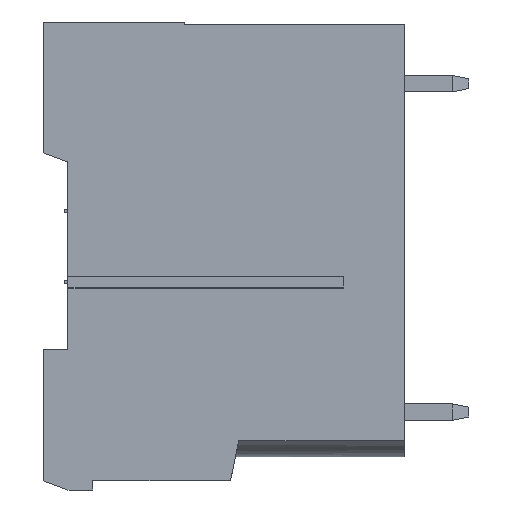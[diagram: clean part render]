
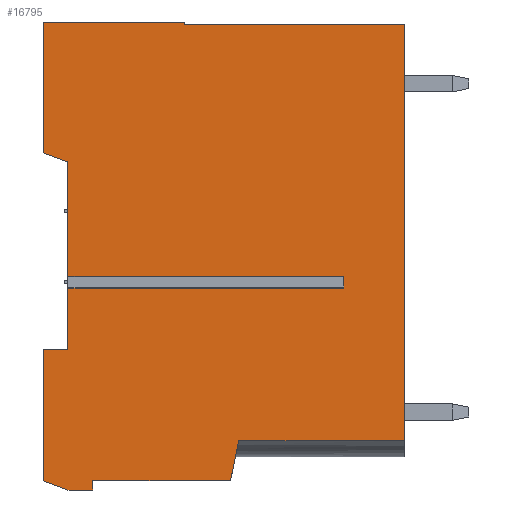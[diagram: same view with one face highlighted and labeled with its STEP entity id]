
A CAD part, left-side view. The second image highlights one B-rep face of the part: STEP entity #16795.
In plain terms, the highlighted planar face has unit normal (-1, 0, 0).
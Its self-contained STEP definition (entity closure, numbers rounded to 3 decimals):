
#12517=DIRECTION('',(0.,0.,1.));
#12518=VECTOR('',#12517,0.71);
#12519=CARTESIAN_POINT('',(-4.,3.7,-16.205));
#12520=LINE('',#12519,#12518);
#12521=DIRECTION('',(0.,0.,1.));
#12522=VECTOR('',#12521,6.975);
#12523=CARTESIAN_POINT('',(-4.,20.5,-15.495));
#12524=LINE('',#12523,#12522);
#12525=DIRECTION('',(0.,0.939,0.344));
#12526=VECTOR('',#12525,1.598);
#12527=CARTESIAN_POINT('',(-4.,20.5,-8.52));
#12528=LINE('',#12527,#12526);
#12529=DIRECTION('',(0.,0.,1.));
#12530=VECTOR('',#12529,7.97);
#12531=CARTESIAN_POINT('',(-4.,22.,-7.97));
#12532=LINE('',#12531,#12530);
#12533=DIRECTION('',(0.,-1.,0.));
#12534=VECTOR('',#12533,8.6);
#12535=CARTESIAN_POINT('',(-4.,22.,0.));
#12536=LINE('',#12535,#12534);
#12537=DIRECTION('',(0.,0.,-1.));
#12538=VECTOR('',#12537,0.15);
#12539=CARTESIAN_POINT('',(-4.,13.4,0.));
#12540=LINE('',#12539,#12538);
#12541=DIRECTION('',(0.,-1.,0.));
#12542=VECTOR('',#12541,13.4);
#12543=CARTESIAN_POINT('',(-4.,13.4,-0.15));
#12544=LINE('',#12543,#12542);
#12545=DIRECTION('',(0.,0.,-1.));
#12546=VECTOR('',#12545,25.35);
#12547=CARTESIAN_POINT('',(-4.,0.,-0.15));
#12548=LINE('',#12547,#12546);
#12549=DIRECTION('',(0.,1.,0.));
#12550=VECTOR('',#12549,10.1);
#12551=CARTESIAN_POINT('',(-4.,0.,-25.5));
#12552=LINE('',#12551,#12550);
#12553=DIRECTION('',(0.,0.2,-0.98));
#12554=VECTOR('',#12553,2.5);
#12555=CARTESIAN_POINT('',(-4.,10.1,-25.5));
#12556=LINE('',#12555,#12554);
#12557=DIRECTION('',(0.,1.,0.));
#12558=VECTOR('',#12557,8.4);
#12559=CARTESIAN_POINT('',(-4.,10.6,-27.95));
#12560=LINE('',#12559,#12558);
#12561=DIRECTION('',(0.,0.,-1.));
#12562=VECTOR('',#12561,0.55);
#12563=CARTESIAN_POINT('',(-4.,19.,-27.95));
#12564=LINE('',#12563,#12562);
#12565=DIRECTION('',(0.,1.,0.));
#12566=VECTOR('',#12565,1.5);
#12567=CARTESIAN_POINT('',(-4.,19.,-28.5));
#12568=LINE('',#12567,#12566);
#12569=DIRECTION('',(0.,0.939,0.344));
#12570=VECTOR('',#12569,1.598);
#12571=CARTESIAN_POINT('',(-4.,20.5,-28.5));
#12572=LINE('',#12571,#12570);
#12573=DIRECTION('',(0.,0.,1.));
#12574=VECTOR('',#12573,8.);
#12575=CARTESIAN_POINT('',(-4.,22.,-27.95));
#12576=LINE('',#12575,#12574);
#12577=DIRECTION('',(0.,-1.,0.));
#12578=VECTOR('',#12577,1.5);
#12579=CARTESIAN_POINT('',(-4.,22.,-19.95));
#12580=LINE('',#12579,#12578);
#12581=DIRECTION('',(0.,0.,1.));
#12582=VECTOR('',#12581,3.745);
#12583=CARTESIAN_POINT('',(-4.,20.5,-19.95));
#12584=LINE('',#12583,#12582);
#12621=DIRECTION('',(0.,1.,0.));
#12622=VECTOR('',#12621,16.8);
#12623=CARTESIAN_POINT('',(-4.,3.7,-16.205));
#12624=LINE('',#12623,#12622);
#12645=DIRECTION('',(0.,-1.,0.));
#12646=VECTOR('',#12645,16.8);
#12647=CARTESIAN_POINT('',(-4.,20.5,-15.495));
#12648=LINE('',#12647,#12646);
#14521=CARTESIAN_POINT('',(-4.,20.5,-8.52));
#14522=VERTEX_POINT('',#14521);
#14523=CARTESIAN_POINT('',(-4.,20.5,-15.495));
#14524=VERTEX_POINT('',#14523);
#14537=CARTESIAN_POINT('',(-4.,20.5,-16.205));
#14538=VERTEX_POINT('',#14537);
#14539=CARTESIAN_POINT('',(-4.,20.5,-19.95));
#14540=VERTEX_POINT('',#14539);
#14751=CARTESIAN_POINT('',(-4.,22.,0.));
#14752=VERTEX_POINT('',#14751);
#14753=CARTESIAN_POINT('',(-4.,22.,-7.97));
#14754=VERTEX_POINT('',#14753);
#14771=CARTESIAN_POINT('',(-4.,22.,-19.95));
#14772=VERTEX_POINT('',#14771);
#14773=CARTESIAN_POINT('',(-4.,22.,-27.95));
#14774=VERTEX_POINT('',#14773);
#14843=CARTESIAN_POINT('',(-4.,0.,-25.5));
#14844=VERTEX_POINT('',#14843);
#14845=CARTESIAN_POINT('',(-4.,0.,-0.15));
#14846=VERTEX_POINT('',#14845);
#14925=CARTESIAN_POINT('',(-4.,10.1,-25.5));
#14926=VERTEX_POINT('',#14925);
#14929=CARTESIAN_POINT('',(-4.,10.6,-27.95));
#14930=VERTEX_POINT('',#14929);
#14931=CARTESIAN_POINT('',(-4.,19.,-27.95));
#14932=VERTEX_POINT('',#14931);
#14933=CARTESIAN_POINT('',(-4.,19.,-28.5));
#14934=VERTEX_POINT('',#14933);
#14939=CARTESIAN_POINT('',(-4.,20.5,-28.5));
#14940=VERTEX_POINT('',#14939);
#14941=CARTESIAN_POINT('',(-4.,3.7,-16.205));
#14942=CARTESIAN_POINT('',(-4.,3.7,-15.495));
#14943=VERTEX_POINT('',#14941);
#14944=VERTEX_POINT('',#14942);
#14945=CARTESIAN_POINT('',(-4.,13.4,0.));
#14946=VERTEX_POINT('',#14945);
#14947=CARTESIAN_POINT('',(-4.,13.4,-0.15));
#14948=VERTEX_POINT('',#14947);
#16759=CARTESIAN_POINT('',(-4.,0.,0.));
#16760=DIRECTION('',(-1.,0.,0.));
#16761=DIRECTION('',(0.,0.,1.));
#16762=AXIS2_PLACEMENT_3D('',#16759,#16760,#16761);
#16763=PLANE('',#16762);
#16765=ORIENTED_EDGE('',*,*,#16764,.T.);
#16767=ORIENTED_EDGE('',*,*,#16766,.F.);
#16768=ORIENTED_EDGE('',*,*,#15441,.T.);
#16770=ORIENTED_EDGE('',*,*,#16769,.T.);
#16772=ORIENTED_EDGE('',*,*,#16771,.T.);
#16774=ORIENTED_EDGE('',*,*,#16773,.T.);
#16776=ORIENTED_EDGE('',*,*,#16775,.T.);
#16778=ORIENTED_EDGE('',*,*,#16777,.T.);
#16779=ORIENTED_EDGE('',*,*,#16535,.T.);
#16781=ORIENTED_EDGE('',*,*,#16780,.T.);
#16782=ORIENTED_EDGE('',*,*,#16625,.T.);
#16783=ORIENTED_EDGE('',*,*,#16643,.T.);
#16784=ORIENTED_EDGE('',*,*,#16657,.T.);
#16785=ORIENTED_EDGE('',*,*,#16675,.T.);
#16786=ORIENTED_EDGE('',*,*,#16752,.T.);
#16787=ORIENTED_EDGE('',*,*,#15692,.T.);
#16789=ORIENTED_EDGE('',*,*,#16788,.T.);
#16790=ORIENTED_EDGE('',*,*,#15457,.T.);
#16792=ORIENTED_EDGE('',*,*,#16791,.F.);
#16793=EDGE_LOOP('',(#16765,#16767,#16768,#16770,#16772,#16774,#16776,#16778,
#16779,#16781,#16782,#16783,#16784,#16785,#16786,#16787,#16789,#16790,#16792));
#16794=FACE_OUTER_BOUND('',#16793,.F.);
#16795=ADVANCED_FACE('',(#16794),#16763,.T.);
#15441=EDGE_CURVE('',#14524,#14522,#12524,.T.);
#15457=EDGE_CURVE('',#14540,#14538,#12584,.T.);
#15692=EDGE_CURVE('',#14774,#14772,#12576,.T.);
#16535=EDGE_CURVE('',#14846,#14844,#12548,.T.);
#16625=EDGE_CURVE('',#14926,#14930,#12556,.T.);
#16643=EDGE_CURVE('',#14930,#14932,#12560,.T.);
#16657=EDGE_CURVE('',#14932,#14934,#12564,.T.);
#16675=EDGE_CURVE('',#14934,#14940,#12568,.T.);
#16752=EDGE_CURVE('',#14940,#14774,#12572,.T.);
#16764=EDGE_CURVE('',#14943,#14944,#12520,.T.);
#16766=EDGE_CURVE('',#14524,#14944,#12648,.T.);
#16769=EDGE_CURVE('',#14522,#14754,#12528,.T.);
#16771=EDGE_CURVE('',#14754,#14752,#12532,.T.);
#16773=EDGE_CURVE('',#14752,#14946,#12536,.T.);
#16775=EDGE_CURVE('',#14946,#14948,#12540,.T.);
#16777=EDGE_CURVE('',#14948,#14846,#12544,.T.);
#16780=EDGE_CURVE('',#14844,#14926,#12552,.T.);
#16788=EDGE_CURVE('',#14772,#14540,#12580,.T.);
#16791=EDGE_CURVE('',#14943,#14538,#12624,.T.);
